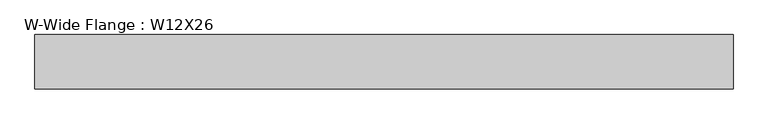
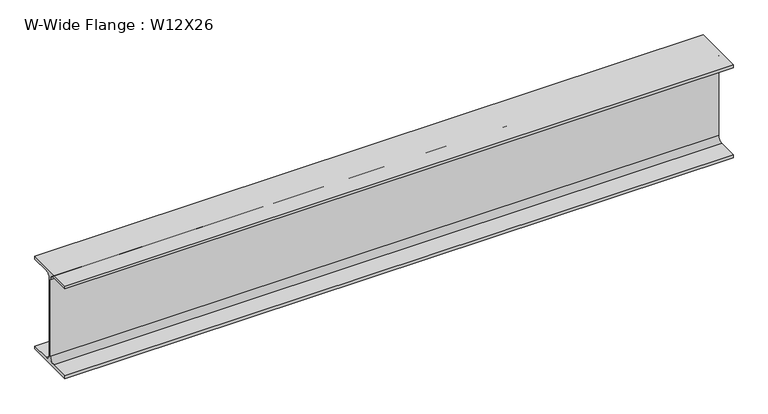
"""IFC4 building model written with IfcOpenShell, lengths in millimetres: beam geometry, W-Wide Flange : W12X26."""

from ifc_helpers import new_model, si_unit, point, frame, frame_2d, origin, place, context, project, spatial, polyline, circle_curve, trimmed, segment, composite_curve, outline, extrude, source, transform, mapped, element, save


def w_wide_flange_w12x26_e2d6fac9(model_context):
    return source(origin(), model_context, "Body", "SweptSolid", [
        extrude(outline(composite_curve([segment(polyline([(82.4011719, -145.5539063), (82.4011719, -155.178125), (-82.4011719, -155.178125), (-82.4011719, -145.5539063), (-20.2902344, -145.5539063)]), True, "CONTINUOUS"), segment(trimmed(circle_curve(frame_2d((-20.2902344, -128.190625)), 17.3632812), [point((-20.2902344, -145.5539063))], [point((-2.9269531, -128.190625))], True, "CARTESIAN"), True, "CONTINUOUS"), segment(polyline([(-2.9269531, -128.190625), (-2.9269531, 128.190625)]), True, "CONTINUOUS"), segment(trimmed(circle_curve(frame_2d((-20.2902344, 128.190625)), 17.3632812), [point((-2.9269531, 128.190625))], [point((-20.2902344, 145.5539062))], True, "CARTESIAN"), True, "CONTINUOUS"), segment(polyline([(-20.2902344, 145.5539062), (-82.4011719, 145.5539062), (-82.4011719, 155.178125), (82.4011719, 155.178125), (82.4011719, 145.5539062), (20.2902344, 145.5539062)]), True, "CONTINUOUS"), segment(trimmed(circle_curve(frame_2d((20.2902344, 128.190625)), 17.3632812), [point((20.2902344, 145.5539062))], [point((2.9269531, 128.190625))], True, "CARTESIAN"), True, "CONTINUOUS"), segment(polyline([(2.9269531, 128.190625), (2.9269531, -128.190625)]), True, "CONTINUOUS"), segment(trimmed(circle_curve(frame_2d((20.2902344, -128.190625)), 17.3632812), [point((2.9269531, -128.190625))], [point((20.2902344, -145.5539063))], True, "CARTESIAN"), True, "CONTINUOUS"), segment(polyline([(20.2902344, -145.5539063), (82.4011719, -145.5539063)]), True, "CONTINUOUS")], self_intersect=False)), frame((-1068.0068537, 0.0, 0.0), z_axis=(1.0, 0.0, 0.0), x_axis=(0.0, 1.0, 0.0)), (0.0, 0.0, 1.0), 2113.3467415),
    ])


if __name__ == "__main__":
    model = new_model("IFC4")
    model_context = context("Model", 3, world=origin())
    ifc_project = project(units=[si_unit("LENGTHUNIT", "METRE", prefix="MILLI")], contexts=[model_context])
    site = spatial("IfcSite", under=ifc_project)
    building = spatial("IfcBuilding", under=site)
    placement = place(None, origin())
    w_wide_flange_w12x26_shape = w_wide_flange_w12x26_e2d6fac9(model_context)
    element("IfcBeam", 1, ObjectType="W-Wide Flange : W12X26", at=placement, inside=building, context=model_context, shape_type="MappedRepresentation", body=[
        mapped(w_wide_flange_w12x26_shape, transform((0.0, 0.0, 0.0), x_axis=(1.0, 0.0, 0.0), y_axis=(0.0, 1.0, 0.0), z_axis=(0.0, 0.0, 1.0))),
    ])
    save(model, "model.ifc")
